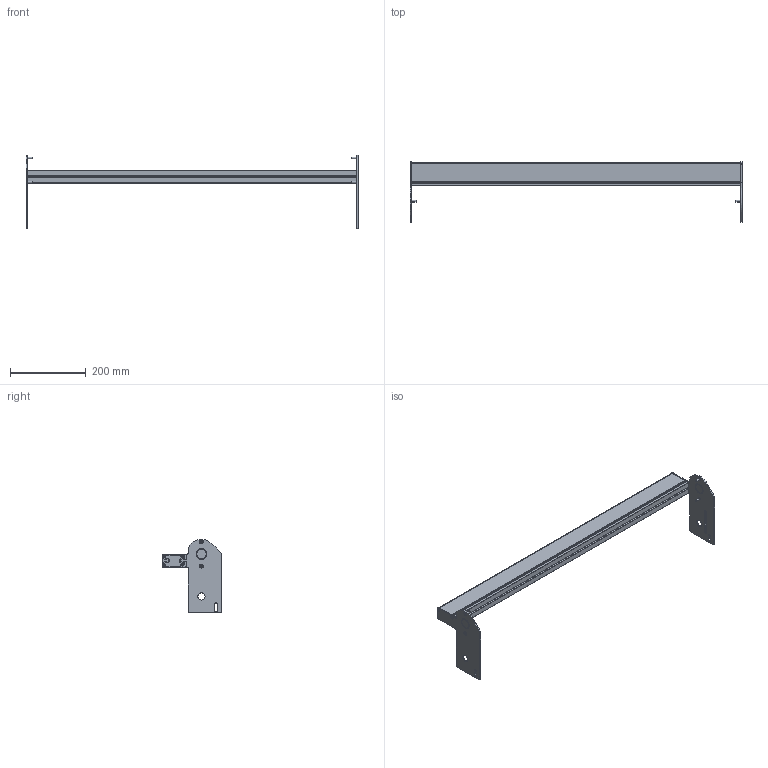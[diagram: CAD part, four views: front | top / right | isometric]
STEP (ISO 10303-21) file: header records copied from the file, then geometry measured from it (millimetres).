
FILE_DESCRIPTION((''),'2;1');
FILE_NAME('350712-34_ASM','2023-03-22T',('jenni.wallner'),(''),'PRO/ENGINEER BY PARAMETRIC TECHNOLOGY CORPORATION, 2012420','PRO/ENGINEER BY PARAMETRIC TECHNOLOGY CORPORATION, 2012420','');
FILE_SCHEMA(('CONFIG_CONTROL_DESIGN'));
Length unit declared in the file: inch
Products named in the file (6): 350669-34; 350667; 350668; 930412M; 930516M; 350712-34_ASM
Assembly tree (11 placements, depth 2):
  350712-34_ASM
    350669-34
    350667
    350668
    930412M  x4
    930516M  x4
Bounding box: 875.94 x 158.09 x 193.27 mm (x, y, z)
Volume: 798503.8 mm3; surface area: 519681 mm2
Topology: 11 solids, 11 shells, 334 faces, 872 edges, 568 vertices
Faces by surface type: plane 150, cylinder 136, cone 48
Entity records: 7773 total; most frequent: DIRECTION 1398, CARTESIAN_POINT 1317, ORIENTED_EDGE 1288, EDGE_CURVE 644, AXIS2_PLACEMENT_3D 505, VERTEX_POINT 424, VECTOR 388, LINE 388
